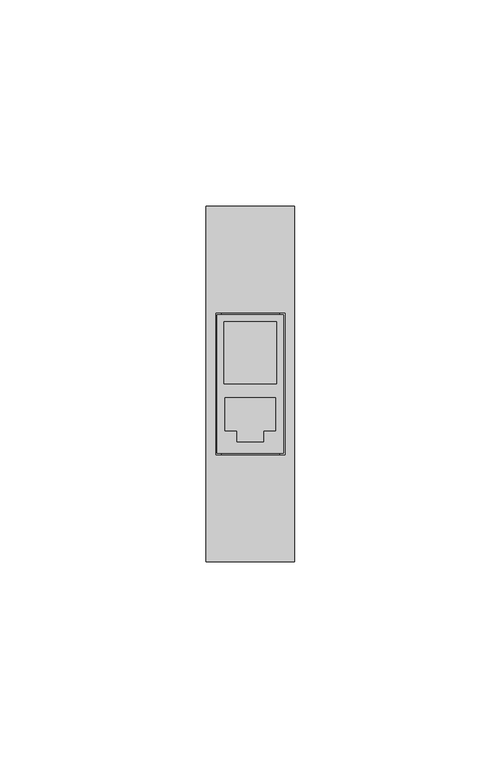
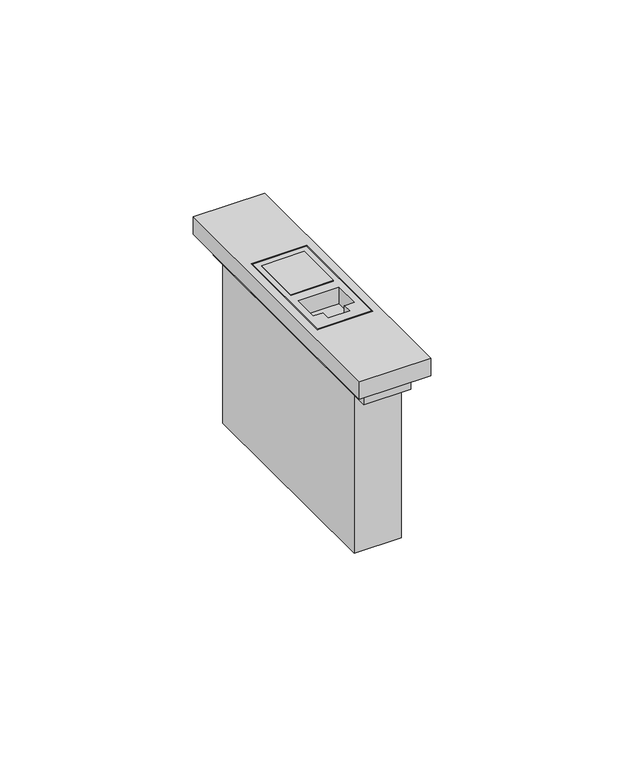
"""IFC4 building model written with IfcOpenShell, lengths in millimetres: electric appliance geometry, BT_LN-PresaRJ45 : Presa RJ45 - Art. KM4279C6 - 1M - Cover Sabbia."""

from ifc_helpers import new_model, si_unit, frame, origin, origin_with_axes, place, context, project, spatial, polyline, outline, extrude, source, transform, mapped, element, save


def electric_appliance_82e80eb8(model_context):
    return source(origin(), model_context, "Body", "SweptSolid", [
        extrude(outline(polyline([(-7.0, 39.0), (7.0, 39.0), (7.0, -39.0), (-7.0, -39.0), (-7.0, 39.0)])), frame((0.0, 0.0, 50.0), z_axis=(0.0, 0.0, 1.0), x_axis=(1.0, 0.0, 0.0)), (0.0, 0.0, 1.0), 5.5),
        extrude(outline(polyline([(-7.0, 34.0), (7.0, 34.0), (7.0, -34.0), (-7.0, -34.0), (-7.0, 34.0)])), origin_with_axes(), (0.0, 0.0, 1.0), 50.0),
        extrude(outline(polyline([(-6.3433174, 15.1017303), (6.3433174, 15.1017303), (6.3433174, 0.0), (-6.3433174, 0.0), (-6.3433174, 15.1017303)])), frame((0.0, 0.0, 55.5), z_axis=(0.0, 0.0, 1.0), x_axis=(1.0, 0.0, 0.0)), (0.0, 0.0, 1.0), 5.5),
        extrude(outline(polyline([(-8.0433174, 16.8017303), (8.0433174, 16.8017303), (8.0433174, -16.8017303), (-8.0433174, -16.8017303), (-8.0433174, 16.8017303)]), holes=[polyline([(-6.3433174, 15.1017303), (-6.3433174, 0.0), (6.3433174, 0.0), (6.3433174, 15.1017303), (-6.3433174, 15.1017303)]), polyline([(6.1104891, -3.3772585), (-6.1104891, -3.3772585), (-6.1104891, -11.2922681), (-3.1995674, -11.2922681), (-3.1995674, -13.9488138), (3.1995674, -13.9488138), (3.1995674, -11.2922681), (6.1104891, -11.2922681), (6.1104891, -3.3772585)])]), frame((0.0, 0.0, 55.5), z_axis=(0.0, 0.0, 1.0), x_axis=(1.0, 0.0, 0.0)), (0.0, 0.0, 1.0), 5.5),
        extrude(outline(polyline([(-10.7, -43.0), (-10.7, 43.0), (10.7, 43.0), (10.7, -43.0), (-10.7, -43.0)]), holes=[polyline([(-8.3433174, -17.1017303), (8.3433174, -17.1017303), (8.3433174, 17.1017303), (-8.3433174, 17.1017303), (-8.3433174, -17.1017303)])]), frame((0.0, 0.0, 55.5), z_axis=(0.0, 0.0, 1.0), x_axis=(1.0, 0.0, 0.0)), (0.0, 0.0, 1.0), 5.5),
    ])


if __name__ == "__main__":
    model = new_model("IFC4")
    model_context = context("Model", 3, world=origin())
    ifc_project = project(units=[si_unit("LENGTHUNIT", "METRE", prefix="MILLI")], contexts=[model_context])
    site = spatial("IfcSite", under=ifc_project)
    building = spatial("IfcBuilding", under=site)
    placement = place(None, origin())
    electric_appliance_shape = electric_appliance_82e80eb8(model_context)
    element("IfcElectricAppliance", 1, ObjectType="BT_LN-PresaRJ45 : Presa RJ45 - Art. KM4279C6 - 1M - Cover Sabbia", at=placement, inside=building, context=model_context, shape_type="MappedRepresentation", body=[
        mapped(electric_appliance_shape, transform((0.0, 0.0, 0.0), x_axis=(1.0, 0.0, 0.0), y_axis=(0.0, 1.0, 0.0), z_axis=(0.0, 0.0, 1.0))),
    ])
    save(model, "model.ifc")
